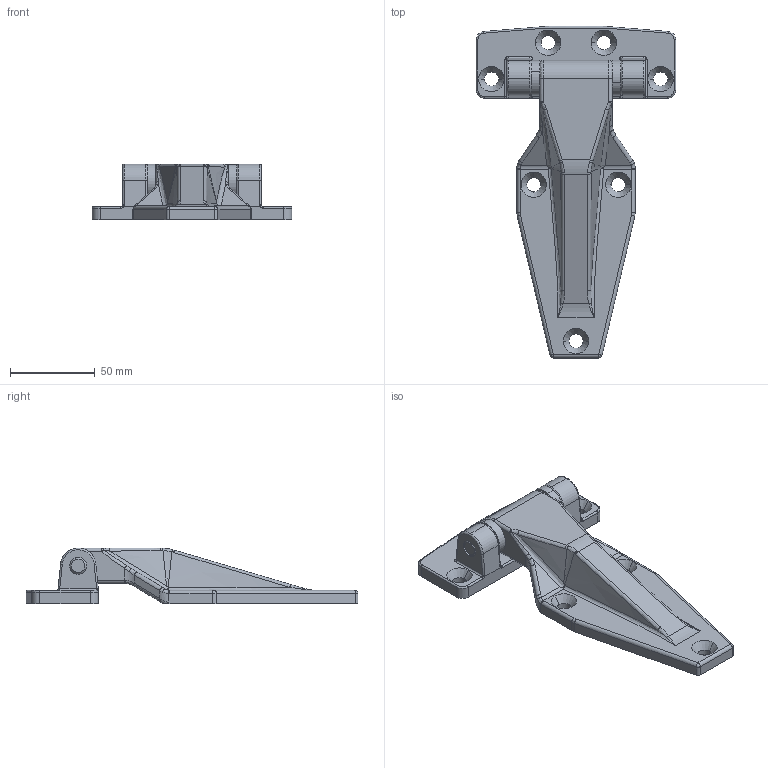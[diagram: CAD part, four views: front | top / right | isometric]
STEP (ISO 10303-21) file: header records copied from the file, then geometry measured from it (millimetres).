
FILE_DESCRIPTION (( 'STEP AP203' ), '1' );
FILE_NAME ('SK2-8065.STEP', '2020-03-24T01:45:16', ( 'admin' ), ( 'Microsoft' ), 'SwSTEP 2.0', 'SolidWorks 2018', '' );
FILE_SCHEMA (( 'CONFIG_CONTROL_DESIGN' ));
Length unit declared in the file: millimetre
Products named in the file (5): 2-8065-F1; 2-8065-F2; 2-8065-F3; 2-8065-F4; SK2-8065
Assembly tree (5 placements, depth 2):
  SK2-8065
    2-8065-F1
    2-8065-F2
    2-8065-F3  x2
    2-8065-F4
Bounding box: 118 x 196.37 x 33 mm (x, y, z)
Volume: 104525.9 mm3; surface area: 54873.2 mm2
Topology: 5 solids, 5 shells, 942 faces, 2391 edges, 1455 vertices
Faces by surface type: bspline 396, plane 294, cylinder 230, cone 18, torus 4
Entity records: 48486 total; most frequent: CARTESIAN_POINT 28935, ORIENTED_EDGE 4642, DIRECTION 2806, EDGE_CURVE 2321, VERTEX_POINT 1447, EDGE_LOOP 1012, AXIS2_PLACEMENT_3D 951, FACE_OUTER_BOUND 936
